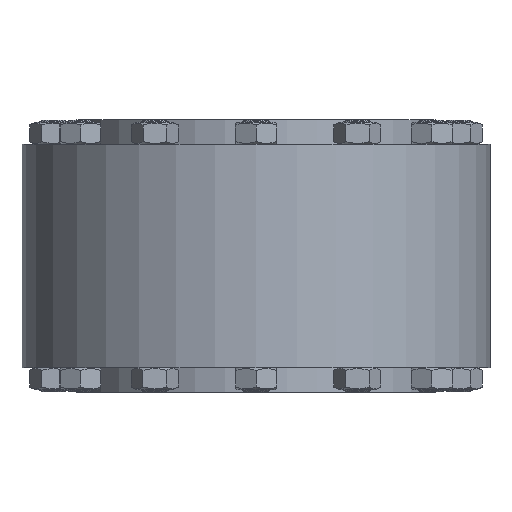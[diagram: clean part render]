
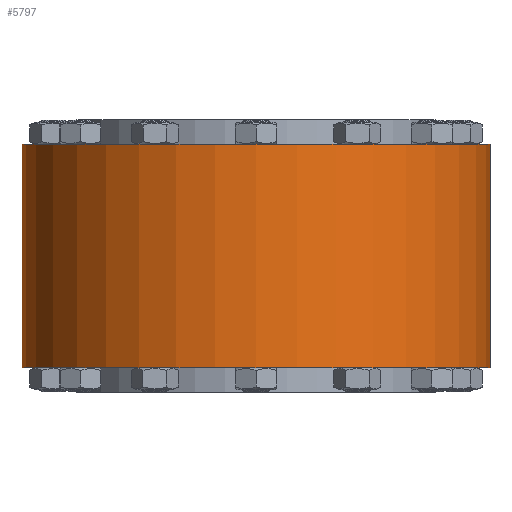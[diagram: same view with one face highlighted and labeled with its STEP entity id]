
A CAD part, front view. The second image highlights one B-rep face of the part: STEP entity #5797.
In plain terms, the highlighted cylindrical face has radius 172.5 mm (diameter 345 mm), a full revolution.
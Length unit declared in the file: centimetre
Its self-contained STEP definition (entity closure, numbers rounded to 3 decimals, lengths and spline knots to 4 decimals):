
#1050=FACE_BOUND('',#1938,.T.);
#1436=FACE_OUTER_BOUND('',#1937,.T.);
#1937=EDGE_LOOP('',(#4509));
#1938=EDGE_LOOP('',(#4510));
#2444=CIRCLE('',#6344,17.25);
#2445=CIRCLE('',#6345,17.25);
#2872=VERTEX_POINT('',#9372);
#2873=VERTEX_POINT('',#9374);
#3498=EDGE_CURVE('',#2872,#2872,#2444,.T.);
#3499=EDGE_CURVE('',#2873,#2873,#2445,.T.);
#4509=ORIENTED_EDGE('',*,*,#3498,.F.);
#4510=ORIENTED_EDGE('',*,*,#3499,.F.);
#5178=CYLINDRICAL_SURFACE('',#6343,17.25);
#5797=ADVANCED_FACE('',(#1436,#1050),#5178,.T.);
#6343=AXIS2_PLACEMENT_3D('',#9371,#7401,#7402);
#6344=AXIS2_PLACEMENT_3D('',#9373,#7403,#7404);
#6345=AXIS2_PLACEMENT_3D('',#9375,#7405,#7406);
#7401=DIRECTION('center_axis',(0.,0.,
-1.));
#7402=DIRECTION('ref_axis',(0.,1.,0.));
#7403=DIRECTION('center_axis',(0.,0.,
1.));
#7404=DIRECTION('ref_axis',(0.,-1.,0.));
#7405=DIRECTION('center_axis',(0.,0.,
-1.));
#7406=DIRECTION('ref_axis',(-1.,0.,0.));
#9371=CARTESIAN_POINT('Origin',(0.,0.,
-7.725));
#9372=CARTESIAN_POINT('',(-17.25,0.,8.25));
#9373=CARTESIAN_POINT('Origin',(0.,0.,
8.25));
#9374=CARTESIAN_POINT('',(-17.25,0.,-8.25));
#9375=CARTESIAN_POINT('Origin',(0.,0.,
-8.25));
